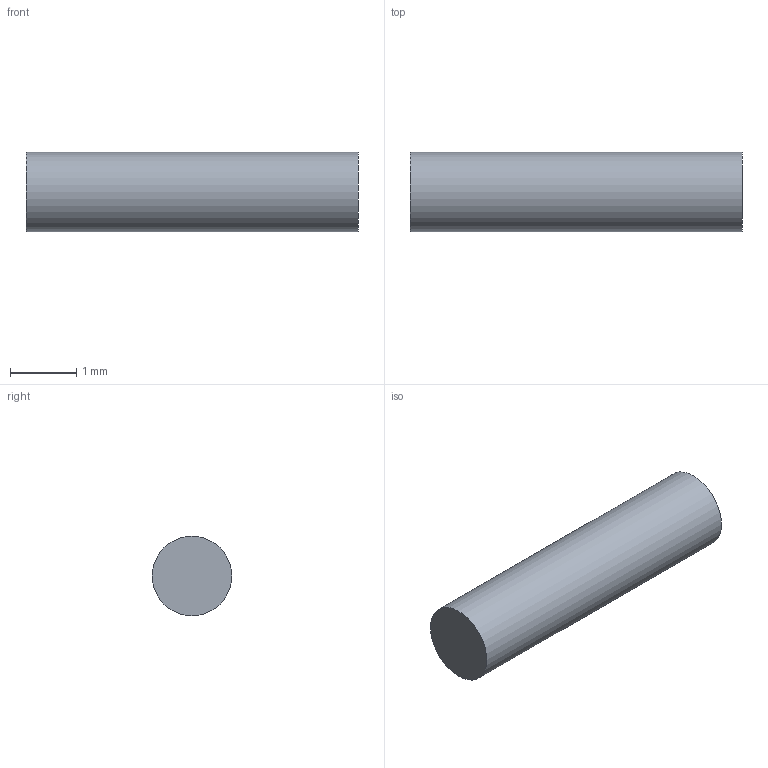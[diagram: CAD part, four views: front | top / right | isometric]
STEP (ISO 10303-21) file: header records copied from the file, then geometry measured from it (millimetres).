
FILE_DESCRIPTION(('Open CASCADE Model'),'2;1');
FILE_NAME('B3_R12_follower_keeper','2026-09-28T18:17:14',('Author'),( 'Open CASCADE'),'Open CASCADE STEP processor 7.9','build123d', 'Unknown');
FILE_SCHEMA(('AUTOMOTIVE_DESIGN { 1 0 10303 214 1 1 1 1 }'));
Length unit declared in the file: millimetre
Products named in the file (1): B3_R12_follower_keeper
Bounding box: 5 x 1.2 x 1.2 mm (x, y, z)
Volume: 5.7 mm3; surface area: 21.1 mm2
Topology: 1 solids, 1 shells, 3 faces, 3 edges, 2 vertices
Faces by surface type: plane 2, cylinder 1
Full cylindrical faces by diameter (mm): 1.2 x1
Entity records: 119 total; most frequent: DIRECTION 19, CARTESIAN_POINT 15, AXIS2_PLACEMENT_3D 6, ORIENTED_EDGE 6, PCURVE 6, DEFINITIONAL_REPRESENTATION 6, LINE 5, VECTOR 5
